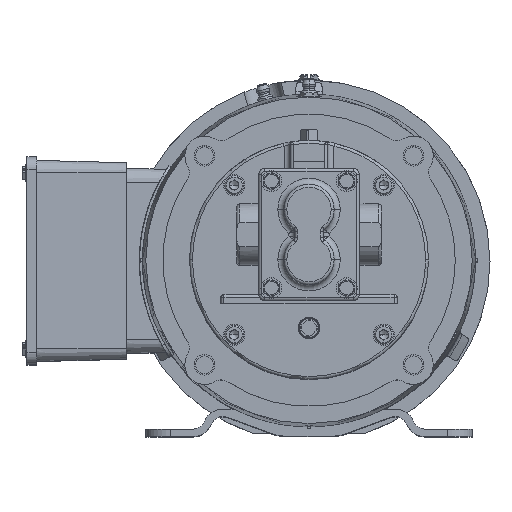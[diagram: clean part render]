
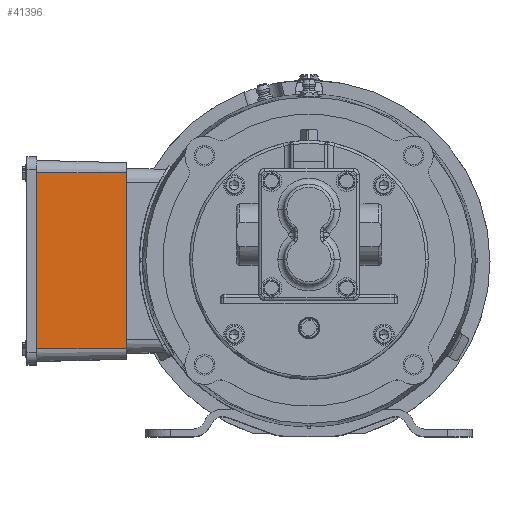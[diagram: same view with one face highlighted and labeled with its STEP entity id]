
A CAD part, top view. The second image highlights one B-rep face of the part: STEP entity #41396.
In plain terms, the highlighted planar face has unit normal (0.026, 0, 1).
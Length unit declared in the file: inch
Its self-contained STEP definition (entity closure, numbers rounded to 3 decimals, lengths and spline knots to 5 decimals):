
#585 = CARTESIAN_POINT ( 'NONE',  ( -8.04141, 2.68394, -11.16278 ) ) ;
#10680 = DIRECTION ( 'NONE',  ( 0.026, 0., 1. ) ) ;
#11541 = LINE ( 'NONE', #42474, #39129 ) ;
#11633 = DIRECTION ( 'NONE',  ( 0., -1., 0. ) ) ;
#12484 = VECTOR ( 'NONE', #20361, 39.37008 ) ;
#14300 = LINE ( 'NONE', #68208, #39479 ) ;
#18236 = DIRECTION ( 'NONE',  ( 0., 1., 0. ) ) ;
#20361 = DIRECTION ( 'NONE',  ( -1., 0., 0.026 ) ) ;
#22798 = CARTESIAN_POINT ( 'NONE',  ( -8.04141, -0.81606, -11.16278 ) ) ;
#32667 = ORIENTED_EDGE ( 'NONE', *, *, #66248, .F. ) ;
#34942 = EDGE_CURVE ( 'NONE', #75408, #37200, #40886, .T. ) ;
#37200 = VERTEX_POINT ( 'NONE', #65106 ) ;
#37759 = LINE ( 'NONE', #45748, #74751 ) ;
#39129 = VECTOR ( 'NONE', #72940, 39.37008 ) ;
#39479 = VECTOR ( 'NONE', #44736, 39.37008 ) ;
#40420 = VERTEX_POINT ( 'NONE', #22798 ) ;
#40886 = LINE ( 'NONE', #71351, #12484 ) ;
#41396 = ADVANCED_FACE ( 'NONE', ( #80033 ), #63091, .T. ) ;
#42474 = CARTESIAN_POINT ( 'NONE',  ( -9.92141, -0.81606, -11.11355 ) ) ;
#44736 = DIRECTION ( 'NONE',  ( 0., -1., 0. ) ) ;
#45748 = CARTESIAN_POINT ( 'NONE',  ( -8.04141, 2.68394, -11.16278 ) ) ;
#55624 = CARTESIAN_POINT ( 'NONE',  ( -9.92141, 2.68394, -11.11355 ) ) ;
#62765 = AXIS2_PLACEMENT_3D ( 'NONE', #55624, #10680, #11633 ) ;
#63091 = PLANE ( 'NONE',  #62765 ) ;
#63907 = EDGE_LOOP ( 'NONE', ( #72544, #86020, #32667, #94724 ) ) ;
#64140 = CARTESIAN_POINT ( 'NONE',  ( -9.82641, -0.81606, -11.11604 ) ) ;
#65106 = CARTESIAN_POINT ( 'NONE',  ( -9.82641, 2.68394, -11.11604 ) ) ;
#66248 = EDGE_CURVE ( 'NONE', #40420, #78400, #11541, .T. ) ;
#68208 = CARTESIAN_POINT ( 'NONE',  ( -9.82641, 2.68394, -11.11604 ) ) ;
#70975 = EDGE_CURVE ( 'NONE', #37200, #78400, #14300, .T. ) ;
#71351 = CARTESIAN_POINT ( 'NONE',  ( -9.92141, 2.68394, -11.11355 ) ) ;
#72463 = EDGE_CURVE ( 'NONE', #40420, #75408, #37759, .T. ) ;
#72544 = ORIENTED_EDGE ( 'NONE', *, *, #34942, .T. ) ;
#72940 = DIRECTION ( 'NONE',  ( -1., 0., 0.026 ) ) ;
#74751 = VECTOR ( 'NONE', #18236, 39.37008 ) ;
#75408 = VERTEX_POINT ( 'NONE', #585 ) ;
#78400 = VERTEX_POINT ( 'NONE', #64140 ) ;
#80033 = FACE_OUTER_BOUND ( 'NONE', #63907, .T. ) ;
#86020 = ORIENTED_EDGE ( 'NONE', *, *, #70975, .T. ) ;
#94724 = ORIENTED_EDGE ( 'NONE', *, *, #72463, .T. ) ;
